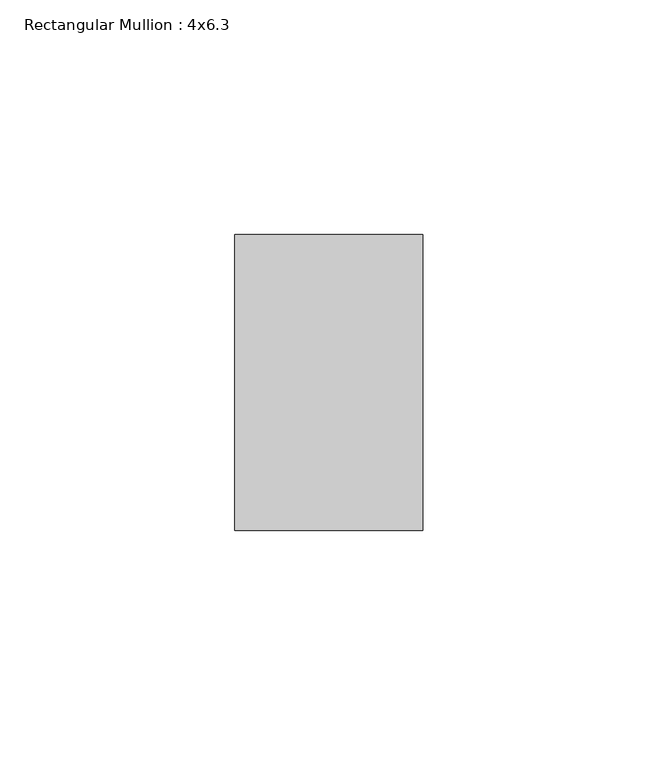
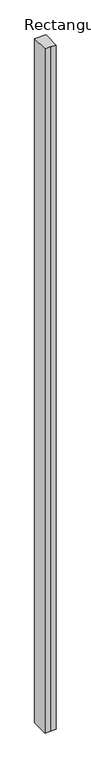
"""IFC4 building model written with IfcOpenShell, lengths in millimetres: member geometry, Rectangular Mullion : 4x6.3."""

from ifc_helpers import new_model, si_unit, frame, origin, place, context, project, spatial, polyline, outline, extrude, source, transform, mapped, element, save


def rectangular_mullion_4x6_3_0a3c59a9(model_context):
    return source(origin(), model_context, "Body", "SweptSolid", [
        extrude(outline(polyline([(-20.0, 20.0), (-20.0, 83.0), (20.0, 83.0), (20.0, 20.0), (0.0, 20.0), (-20.0, 20.0)])), frame((0.0, 0.0, -2569.6631422), z_axis=(0.0, 0.0, 1.0), x_axis=(1.0, 0.0, 0.0)), (0.0, 0.0, 1.0), 2569.6631422),
    ])


if __name__ == "__main__":
    model = new_model("IFC4")
    model_context = context("Model", 3, world=origin())
    ifc_project = project(units=[si_unit("LENGTHUNIT", "METRE", prefix="MILLI")], contexts=[model_context])
    site = spatial("IfcSite", under=ifc_project)
    building = spatial("IfcBuilding", under=site)
    placement = place(None, origin())
    rectangular_mullion_4x6_3_shape = rectangular_mullion_4x6_3_0a3c59a9(model_context)
    element("IfcMember", 1, ObjectType="Rectangular Mullion : 4x6.3", at=placement, inside=building, context=model_context, shape_type="MappedRepresentation", body=[
        mapped(rectangular_mullion_4x6_3_shape, transform((0.0, 0.0, 0.0), x_axis=(1.0, 0.0, 0.0), y_axis=(0.0, 1.0, 0.0), z_axis=(0.0, 0.0, 1.0))),
    ])
    save(model, "model.ifc")
